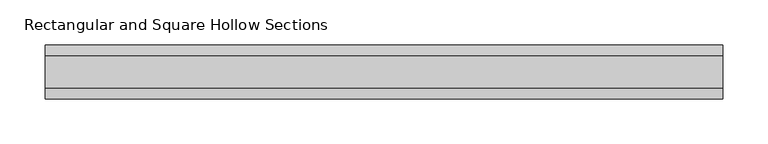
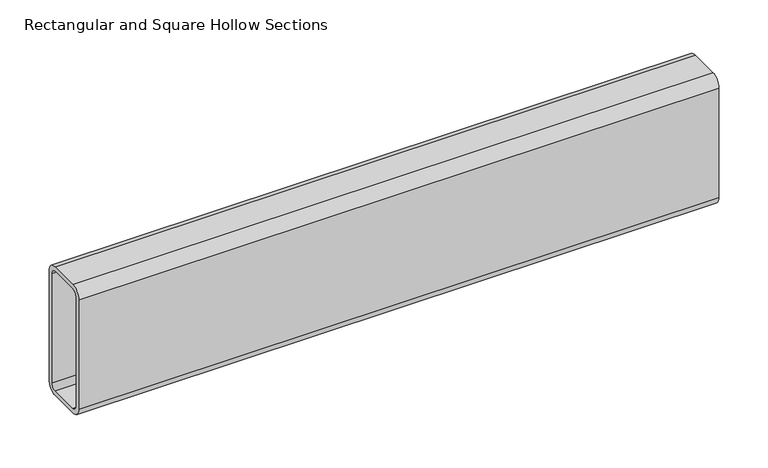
"""IFC4 building model written with IfcOpenShell, lengths in millimetres: beam geometry, Rectangular and Square Hollow Sections : TREC160x60x6."""

from ifc_helpers import new_model, si_unit, point, frame, frame_2d, origin, place, context, project, spatial, polyline, circle_curve, trimmed, segment, composite_curve, outline, extrude, source, transform, mapped, element, save


def rectangular_and_square_hollow_sections_ed999d9d(model_context):
    return source(origin(), model_context, "Body", "SweptSolid", [
        extrude(outline(composite_curve([segment(polyline([(30.0, 68.0), (30.0, -68.0)]), True, "CONTINUOUS"), segment(trimmed(circle_curve(frame_2d((18.0, -68.0)), 12.0), [point((30.0, -68.0))], [point((18.0, -80.0))], False, "CARTESIAN"), True, "CONTINUOUS"), segment(polyline([(18.0, -80.0), (-18.0, -80.0)]), True, "CONTINUOUS"), segment(trimmed(circle_curve(frame_2d((-18.0, -68.0)), 12.0), [point((-18.0, -80.0))], [point((-30.0, -68.0))], False, "CARTESIAN"), True, "CONTINUOUS"), segment(polyline([(-30.0, -68.0), (-30.0, 68.0)]), True, "CONTINUOUS"), segment(trimmed(circle_curve(frame_2d((-18.0, 68.0)), 12.0), [point((-30.0, 68.0))], [point((-18.0, 80.0))], False, "CARTESIAN"), True, "CONTINUOUS"), segment(polyline([(-18.0, 80.0), (18.0, 80.0)]), True, "CONTINUOUS"), segment(trimmed(circle_curve(frame_2d((18.0, 68.0)), 12.0), [point((18.0, 80.0))], [point((30.0, 68.0))], False, "CARTESIAN"), True, "CONTINUOUS")], self_intersect=False), holes=[composite_curve([segment(trimmed(circle_curve(frame_2d((-18.0, 68.0)), 6.0), [point((-18.0, 74.0))], [point((-24.0, 68.0))], True, "CARTESIAN"), True, "CONTINUOUS"), segment(polyline([(-24.0, 68.0), (-24.0, -68.0)]), True, "CONTINUOUS"), segment(trimmed(circle_curve(frame_2d((-18.0, -68.0)), 6.0), [point((-24.0, -68.0))], [point((-18.0, -74.0))], True, "CARTESIAN"), True, "CONTINUOUS"), segment(polyline([(-18.0, -74.0), (18.0, -74.0)]), True, "CONTINUOUS"), segment(trimmed(circle_curve(frame_2d((18.0, -68.0)), 6.0), [point((18.0, -74.0))], [point((24.0, -68.0))], True, "CARTESIAN"), True, "CONTINUOUS"), segment(polyline([(24.0, -68.0), (24.0, 68.0)]), True, "CONTINUOUS"), segment(trimmed(circle_curve(frame_2d((18.0, 68.0)), 6.0), [point((24.0, 68.0))], [point((18.0, 74.0))], True, "CARTESIAN"), True, "CONTINUOUS"), segment(polyline([(18.0, 74.0), (-18.0, 74.0)]), True, "CONTINUOUS")], self_intersect=False)]), frame((-376.0, 0.0, 0.0), z_axis=(1.0, 0.0, 0.0), x_axis=(0.0, 1.0, 0.0)), (0.0, 0.0, 1.0), 752.0),
    ])


if __name__ == "__main__":
    model = new_model("IFC4")
    model_context = context("Model", 3, world=origin())
    ifc_project = project(units=[si_unit("LENGTHUNIT", "METRE", prefix="MILLI")], contexts=[model_context])
    site = spatial("IfcSite", under=ifc_project)
    building = spatial("IfcBuilding", under=site)
    placement = place(None, origin())
    rectangular_and_square_hollow_sections_shape = rectangular_and_square_hollow_sections_ed999d9d(model_context)
    element("IfcBeam", 1, ObjectType="Rectangular and Square Hollow Sections : TREC160x60x6", at=placement, inside=building, context=model_context, shape_type="MappedRepresentation", body=[
        mapped(rectangular_and_square_hollow_sections_shape, transform((0.0, 0.0, 0.0), x_axis=(1.0, 0.0, 0.0), y_axis=(0.0, 1.0, 0.0), z_axis=(0.0, 0.0, 1.0))),
    ])
    save(model, "model.ifc")
